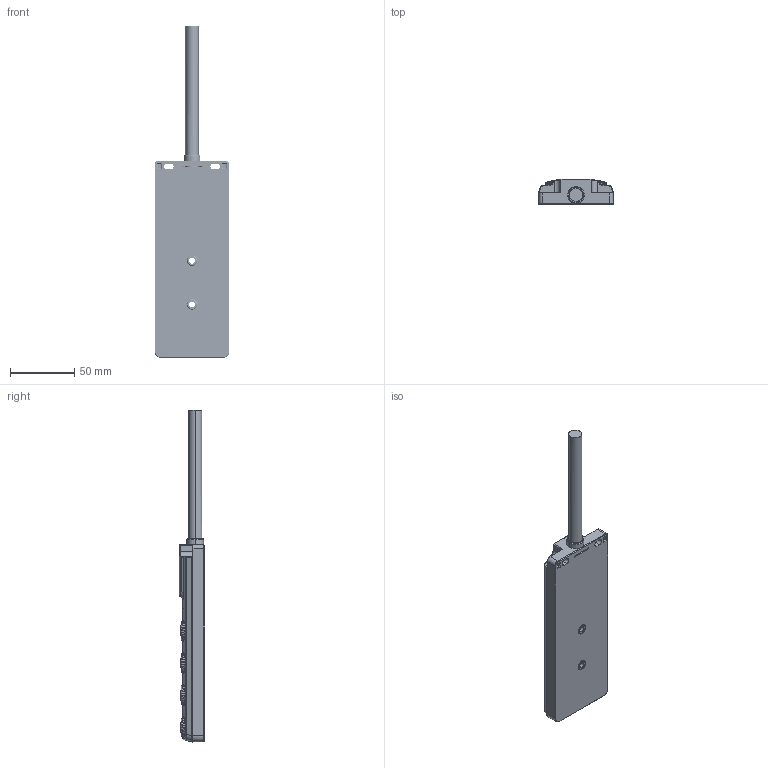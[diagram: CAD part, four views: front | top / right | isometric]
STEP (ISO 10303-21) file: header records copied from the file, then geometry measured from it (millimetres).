
FILE_DESCRIPTION((''),'2;1');
FILE_NAME('24P821_24P841_','2022-06-01T',('PC'),(''),'PRO/ENGINEER BY PARAMETRIC TECHNOLOGY CORPORATION, 2009220','PRO/ENGINEER BY PARAMETRIC TECHNOLOGY CORPORATION, 2009220','');
FILE_SCHEMA(('CONFIG_CONTROL_DESIGN'));
Products named in the file (1): 24P821_24P841_
Bounding box: 58 x 19.5 x 257.5 mm (x, y, z)
Surface area: 50811 mm2 (no closed solid volume)
Topology: 0 solids, 17 shells, 3492 faces, 9846 edges, 6438 vertices
Faces by surface type: plane 1503, cylinder 1057, bspline 505, cone 183, torus 162, extrusion 50, revolution 20, sphere 12
Full cylindrical faces by diameter (mm): 1.5 x8, 1.6 x4
Entity records: 167495 total; most frequent: CARTESIAN_POINT 81370, ORIENTED_EDGE 19410, DIRECTION 15779, EDGE_CURVE 9832, VERTEX_POINT 6438, AXIS2_PLACEMENT_3D 5484, VECTOR 4791, LINE 4741
